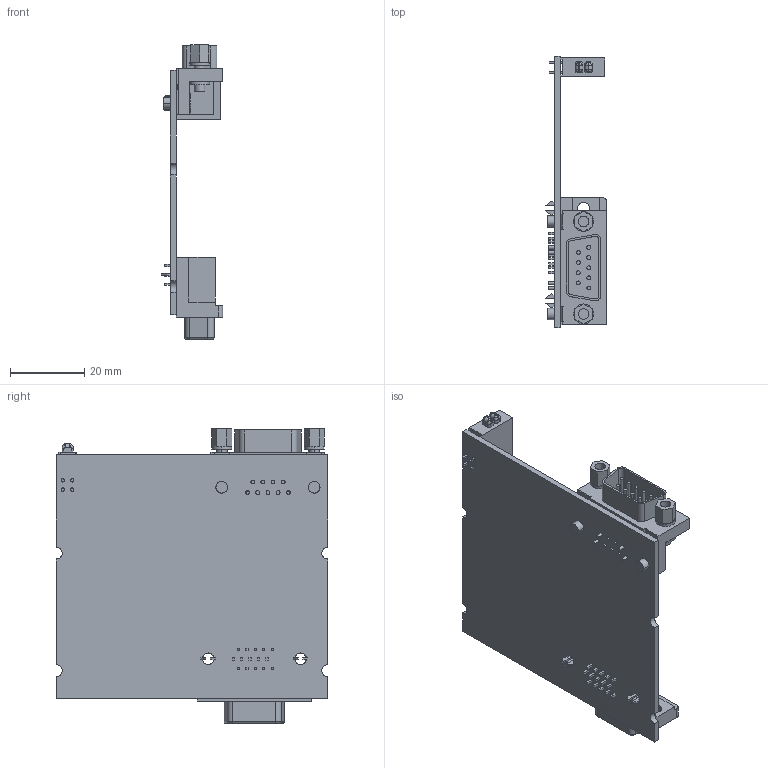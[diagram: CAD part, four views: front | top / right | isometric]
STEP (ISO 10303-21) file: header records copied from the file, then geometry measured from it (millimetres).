
FILE_DESCRIPTION((''),'2;1');
FILE_NAME('CU_SBRIO-98XX','2017-09-21T',('dkendric'),(''),'CREO PARAMETRIC BY PTC INC, 2015380','CREO PARAMETRIC BY PTC INC, 2015380','');
FILE_SCHEMA(('CONFIG_CONTROL_DESIGN'));
Length unit declared in the file: inch
Products named in the file (1): CU_SBRIO-98XX
Bounding box: 16.61 x 73.38 x 79.63 mm (x, y, z)
Volume: 16950.4 mm3; surface area: 15819.5 mm2
Topology: 7 solids, 7 shells, 614 faces, 1444 edges, 926 vertices
Faces by surface type: plane 352, cylinder 212, cone 30, sphere 8, bspline 8, torus 4
Entity records: 18234 total; most frequent: CARTESIAN_POINT 3662, DIRECTION 3112, ORIENTED_EDGE 2888, EDGE_CURVE 1444, AXIS2_PLACEMENT_3D 1094, VERTEX_POINT 926, VECTOR 924, LINE 924
